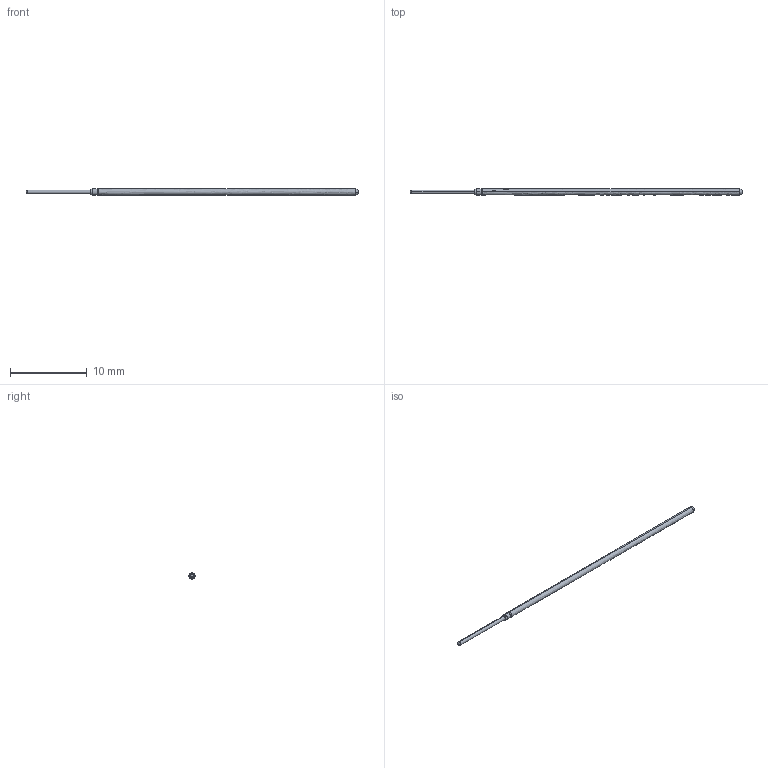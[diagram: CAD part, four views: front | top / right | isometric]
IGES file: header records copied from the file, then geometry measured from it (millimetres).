
Start section: SolidWorks IGES file using analytic representation for surfaces
Global section: file name: L:\probe solid model mockups\Solidworks models\POGO-72J.IGS; native system: SolidWorks 2006 by SolidWorks Corporation; preprocessor: SolidWorks 2006 by SolidWorks Corporation; author: Ksnyder; date: 071211.135844; units: inch
Bounding box: 43.18 x 0.79 x 0.79 mm (x, y, z)
Surface area: 182.2 mm2
Topology: 1 solids, 1 shells, 20 faces, 46 edges, 25 vertices
Faces by surface type: revolution 18, plane 2
